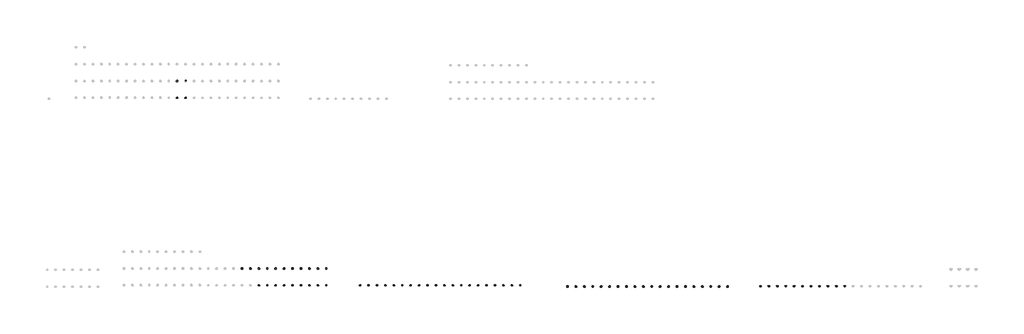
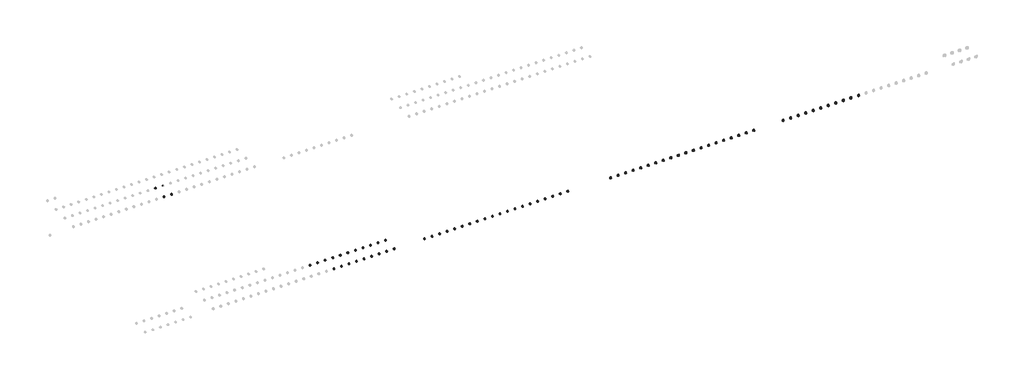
# One storey, part 13 of 18: 75 proxies, 74 cable carrier fittings.
"""IFC4 building model written with IfcOpenShell, lengths in millimetres."""

from ifc_helpers import new_model, si_unit, origin, place, context, project, spatial, transform, mapped, element, save
from components import electrical_fixtures_73520d25, electrical_fixtures_1f2eaab9, electrical_fixtures_01d7cf26, electrical_fixtures_085c7708, electrical_fixtures_ba285ae0, electrical_fixtures_0364c754, electrical_fixtures_46f6e991, electrical_fixtures_b969a870, electrical_fixtures_df0d4698, electrical_fixtures_a90f5210, electrical_fixtures_ac517def, electrical_fixtures_78160e77, cable_carrier_fitting_a64d4eba

model = new_model("IFC4")

# Units and contexts
model_context = context("Model", 3, world=origin())
ifc_project = project(units=[si_unit("LENGTHUNIT", "METRE", prefix="MILLI")], contexts=[model_context])

# Site, building, storey
site = spatial("IfcSite", under=ifc_project)
building = spatial("IfcBuilding", under=site)
storey = spatial("IfcBuildingStorey", under=building, Name="Этаж 01", Elevation=0.0)

# Proxies
placement = place(None, origin())
electrical_fixtures_shape = electrical_fixtures_73520d25(model_context)
element("IfcBuildingElementProxy", 1, Name="IEK_Brite_Механизм розетки мультимедийной : HDMI_РHDMI-0-БрС", ObjectType="IEK_Brite_Механизм розетки мультимедийной : HDMI_РHDMI-0-БрС", at=placement, inside=storey, context=model_context, shape_type="MappedRepresentation", body=[
    mapped(electrical_fixtures_shape, transform((68136.4805226, -17760.0, 0.0), x_axis=(1.0, 0.0, 0.0), y_axis=(0.0, 1.0, 0.0), z_axis=(0.0, 0.0, 1.0))),
])
element("IfcBuildingElementProxy", 2, Name="IEK_Brite_Механизм розетки мультимедийной : HDMI_РHDMI-0-БрТБ", ObjectType="IEK_Brite_Механизм розетки мультимедийной : HDMI_РHDMI-0-БрТБ", at=placement, inside=storey, context=model_context, shape_type="MappedRepresentation", body=[
    mapped(electrical_fixtures_shape, transform((68536.4805226, -17760.0, 0.0), x_axis=(1.0, 0.0, 0.0), y_axis=(0.0, 1.0, 0.0), z_axis=(0.0, 0.0, 1.0))),
])
element("IfcBuildingElementProxy", 3, Name="IEK_Brite_Механизм розетки мультимедийной : HDMI_РHDMI-0-БрЧ", ObjectType="IEK_Brite_Механизм розетки мультимедийной : HDMI_РHDMI-0-БрЧ", at=placement, inside=storey, context=model_context, shape_type="MappedRepresentation", body=[
    mapped(electrical_fixtures_shape, transform((68936.4805226, -17760.0, 0.0), x_axis=(1.0, 0.0, 0.0), y_axis=(0.0, 1.0, 0.0), z_axis=(0.0, 0.0, 1.0))),
])
element("IfcBuildingElementProxy", 4, Name="IEK_Brite_Механизм розетки мультимедийной : HDMI_РHDMI-0-БрШ", ObjectType="IEK_Brite_Механизм розетки мультимедийной : HDMI_РHDMI-0-БрШ", at=placement, inside=storey, context=model_context, shape_type="MappedRepresentation", body=[
    mapped(electrical_fixtures_shape, transform((69336.4805226, -17760.0, 0.0), x_axis=(1.0, 0.0, 0.0), y_axis=(0.0, 1.0, 0.0), z_axis=(0.0, 0.0, 1.0))),
])
electrical_fixtures_2_shape = electrical_fixtures_1f2eaab9(model_context)
element("IfcBuildingElementProxy", 5, Name="IEK_Brite_Механизм розетки мультимедийной : TV О_РТВ11-0-БрА", ObjectType="IEK_Brite_Механизм розетки мультимедийной : TV О_РТВ11-0-БрА", at=placement, inside=storey, context=model_context, shape_type="MappedRepresentation", body=[
    mapped(electrical_fixtures_2_shape, transform((69736.4805226, -17760.0, 0.0), x_axis=(1.0, 0.0, 0.0), y_axis=(0.0, 1.0, 0.0), z_axis=(0.0, 0.0, 1.0))),
])
element("IfcBuildingElementProxy", 6, Name="IEK_Brite_Механизм розетки мультимедийной : TV О_РТВ11-0-БрБ", ObjectType="IEK_Brite_Механизм розетки мультимедийной : TV О_РТВ11-0-БрБ", at=placement, inside=storey, context=model_context, shape_type="MappedRepresentation", body=[
    mapped(electrical_fixtures_2_shape, transform((70136.4805226, -17760.0, 0.0), x_axis=(1.0, 0.0, 0.0), y_axis=(0.0, 1.0, 0.0), z_axis=(0.0, 0.0, 1.0))),
])
element("IfcBuildingElementProxy", 7, Name="IEK_Brite_Механизм розетки мультимедийной : TV О_РТВ11-0-БрГ", ObjectType="IEK_Brite_Механизм розетки мультимедийной : TV О_РТВ11-0-БрГ", at=placement, inside=storey, context=model_context, shape_type="MappedRepresentation", body=[
    mapped(electrical_fixtures_2_shape, transform((70536.4805226, -17760.0, 0.0), x_axis=(1.0, 0.0, 0.0), y_axis=(0.0, 1.0, 0.0), z_axis=(0.0, 0.0, 1.0))),
])
element("IfcBuildingElementProxy", 8, Name="IEK_Brite_Механизм розетки мультимедийной : TV О_РТВ11-0-БрЖ", ObjectType="IEK_Brite_Механизм розетки мультимедийной : TV О_РТВ11-0-БрЖ", at=placement, inside=storey, context=model_context, shape_type="MappedRepresentation", body=[
    mapped(electrical_fixtures_2_shape, transform((70936.4805226, -17760.0, 0.0), x_axis=(1.0, 0.0, 0.0), y_axis=(0.0, 1.0, 0.0), z_axis=(0.0, 0.0, 1.0))),
])
element("IfcBuildingElementProxy", 9, Name="IEK_Brite_Механизм розетки мультимедийной : TV О_РТВ11-0-БрКр", ObjectType="IEK_Brite_Механизм розетки мультимедийной : TV О_РТВ11-0-БрКр", at=placement, inside=storey, context=model_context, shape_type="MappedRepresentation", body=[
    mapped(electrical_fixtures_2_shape, transform((71336.4805226, -17760.0, 0.0), x_axis=(1.0, 0.0, 0.0), y_axis=(0.0, 1.0, 0.0), z_axis=(0.0, 0.0, 1.0))),
])
element("IfcBuildingElementProxy", 10, Name="IEK_Brite_Механизм розетки мультимедийной : TV П_РТВ10-0-БрШ", ObjectType="IEK_Brite_Механизм розетки мультимедийной : TV П_РТВ10-0-БрШ", at=placement, inside=storey, context=model_context, shape_type="MappedRepresentation", body=[
    mapped(electrical_fixtures_2_shape, transform((67336.4805226, -16960.0, 0.0), x_axis=(1.0, 0.0, 0.0), y_axis=(0.0, 1.0, 0.0), z_axis=(0.0, 0.0, 1.0))),
])
electrical_fixtures_3_shape = electrical_fixtures_01d7cf26(model_context)
element("IfcBuildingElementProxy", 11, Name="IEK_Brite_Механизм розетки мультимедийной : TV+RJ45-РТВ/РК12-БрБ", ObjectType="IEK_Brite_Механизм розетки мультимедийной : TV+RJ45-РТВ/РК12-БрБ", at=placement, inside=storey, context=model_context, shape_type="MappedRepresentation", body=[
    mapped(electrical_fixtures_3_shape, transform((67736.4805226, -16960.0, 0.0), x_axis=(1.0, 0.0, 0.0), y_axis=(0.0, 1.0, 0.0), z_axis=(0.0, 0.0, 1.0))),
])
element("IfcBuildingElementProxy", 12, Name="IEK_Brite_Механизм розетки мультимедийной : TV+RJ45-РТВ/РК12-БрГ", ObjectType="IEK_Brite_Механизм розетки мультимедийной : TV+RJ45-РТВ/РК12-БрГ", at=placement, inside=storey, context=model_context, shape_type="MappedRepresentation", body=[
    mapped(electrical_fixtures_3_shape, transform((68136.4805226, -16960.0, 0.0), x_axis=(1.0, 0.0, 0.0), y_axis=(0.0, 1.0, 0.0), z_axis=(0.0, 0.0, 1.0))),
])
element("IfcBuildingElementProxy", 13, Name="IEK_Brite_Механизм розетки мультимедийной : TV+RJ45-РТВ/РК12-БрЖ", ObjectType="IEK_Brite_Механизм розетки мультимедийной : TV+RJ45-РТВ/РК12-БрЖ", at=placement, inside=storey, context=model_context, shape_type="MappedRepresentation", body=[
    mapped(electrical_fixtures_3_shape, transform((68536.4805226, -16960.0, 0.0), x_axis=(1.0, 0.0, 0.0), y_axis=(0.0, 1.0, 0.0), z_axis=(0.0, 0.0, 1.0))),
])
element("IfcBuildingElementProxy", 14, Name="IEK_Brite_Механизм розетки мультимедийной : TV+RJ45-РТВ/РК12-БрКр", ObjectType="IEK_Brite_Механизм розетки мультимедийной : TV+RJ45-РТВ/РК12-БрКр", at=placement, inside=storey, context=model_context, shape_type="MappedRepresentation", body=[
    mapped(electrical_fixtures_3_shape, transform((68936.4805226, -16960.0, 0.0), x_axis=(1.0, 0.0, 0.0), y_axis=(0.0, 1.0, 0.0), z_axis=(0.0, 0.0, 1.0))),
])
element("IfcBuildingElementProxy", 15, Name="IEK_Brite_Механизм розетки мультимедийной : TV+RJ45-РТВ/РК12-БрМ", ObjectType="IEK_Brite_Механизм розетки мультимедийной : TV+RJ45-РТВ/РК12-БрМ", at=placement, inside=storey, context=model_context, shape_type="MappedRepresentation", body=[
    mapped(electrical_fixtures_3_shape, transform((69336.4805226, -16960.0, 0.0), x_axis=(1.0, 0.0, 0.0), y_axis=(0.0, 1.0, 0.0), z_axis=(0.0, 0.0, 1.0))),
])
element("IfcBuildingElementProxy", 16, Name="IEK_Brite_Механизм розетки мультимедийной : TV+RJ45-РТВ/РК12-БрС", ObjectType="IEK_Brite_Механизм розетки мультимедийной : TV+RJ45-РТВ/РК12-БрС", at=placement, inside=storey, context=model_context, shape_type="MappedRepresentation", body=[
    mapped(electrical_fixtures_3_shape, transform((69736.4805226, -16960.0, 0.0), x_axis=(1.0, 0.0, 0.0), y_axis=(0.0, 1.0, 0.0), z_axis=(0.0, 0.0, 1.0))),
])
element("IfcBuildingElementProxy", 17, Name="IEK_Brite_Механизм розетки мультимедийной : TV+RJ45-РТВ/РК12-БрТБ", ObjectType="IEK_Brite_Механизм розетки мультимедийной : TV+RJ45-РТВ/РК12-БрТБ", at=placement, inside=storey, context=model_context, shape_type="MappedRepresentation", body=[
    mapped(electrical_fixtures_3_shape, transform((70136.4805226, -16960.0, 0.0), x_axis=(1.0, 0.0, 0.0), y_axis=(0.0, 1.0, 0.0), z_axis=(0.0, 0.0, 1.0))),
])
element("IfcBuildingElementProxy", 18, Name="IEK_Brite_Механизм розетки мультимедийной : TV+RJ45-РТВ/РК12-БрЧ", ObjectType="IEK_Brite_Механизм розетки мультимедийной : TV+RJ45-РТВ/РК12-БрЧ", at=placement, inside=storey, context=model_context, shape_type="MappedRepresentation", body=[
    mapped(electrical_fixtures_3_shape, transform((70536.4805226, -16960.0, 0.0), x_axis=(1.0, 0.0, 0.0), y_axis=(0.0, 1.0, 0.0), z_axis=(0.0, 0.0, 1.0))),
])
element("IfcBuildingElementProxy", 19, Name="IEK_Brite_Механизм розетки мультимедийной : TV+RJ45-РТВ/РК12-БрШ", ObjectType="IEK_Brite_Механизм розетки мультимедийной : TV+RJ45-РТВ/РК12-БрШ", at=placement, inside=storey, context=model_context, shape_type="MappedRepresentation", body=[
    mapped(electrical_fixtures_3_shape, transform((70936.4805226, -16960.0, 0.0), x_axis=(1.0, 0.0, 0.0), y_axis=(0.0, 1.0, 0.0), z_axis=(0.0, 0.0, 1.0))),
])
electrical_fixtures_4_shape = electrical_fixtures_085c7708(model_context)
element("IfcBuildingElementProxy", 20, Name="IEK_Brite_Механизм розетки мультимедийной : TV+SAT-РТВ/РСп12-БрА", ObjectType="IEK_Brite_Механизм розетки мультимедийной : TV+SAT-РТВ/РСп12-БрА", at=placement, inside=storey, context=model_context, shape_type="MappedRepresentation", body=[
    mapped(electrical_fixtures_4_shape, transform((71336.4805226, -16960.0, 0.0), x_axis=(1.0, 0.0, 0.0), y_axis=(0.0, 1.0, 0.0), z_axis=(0.0, 0.0, 1.0))),
])
electrical_fixtures_5_shape = electrical_fixtures_ba285ae0(model_context)
element("IfcBuildingElementProxy", 21, Name="IEK_Skandy_Механизм розетки мультимедийной : HDMI_SK-H01Bl", ObjectType="IEK_Skandy_Механизм розетки мультимедийной : HDMI_SK-H01Bl", at=placement, inside=storey, context=model_context, shape_type="MappedRepresentation", body=[
    mapped(electrical_fixtures_5_shape, transform((64263.2731659, -8860.0, 0.0), x_axis=(1.0, 0.0, 0.0), y_axis=(0.0, 1.0, 0.0), z_axis=(0.0, 0.0, 1.0))),
])
element("IfcBuildingElementProxy", 22, Name="IEK_Skandy_Механизм розетки мультимедийной : HDMI_SK-H01G", ObjectType="IEK_Skandy_Механизм розетки мультимедийной : HDMI_SK-H01G", at=placement, inside=storey, context=model_context, shape_type="MappedRepresentation", body=[
    mapped(electrical_fixtures_5_shape, transform((64663.2731659, -8860.0, 0.0), x_axis=(1.0, 0.0, 0.0), y_axis=(0.0, 1.0, 0.0), z_axis=(0.0, 0.0, 1.0))),
])
electrical_fixtures_6_shape = electrical_fixtures_0364c754(model_context)
element("IfcBuildingElementProxy", 23, Name="IEK_Skandy_Механизм розетки мультимедийной : TV П_SK-A17M", ObjectType="IEK_Skandy_Механизм розетки мультимедийной : TV П_SK-A17M", at=placement, inside=storey, context=model_context, shape_type="MappedRepresentation", body=[
    mapped(electrical_fixtures_6_shape, transform((64263.2731659, -8060.0, 0.0), x_axis=(1.0, 0.0, 0.0), y_axis=(0.0, 1.0, 0.0), z_axis=(0.0, 0.0, 1.0))),
])
element("IfcBuildingElementProxy", 24, Name="IEK_Skandy_Механизм розетки мультимедийной : TV П_SK-A17N", ObjectType="IEK_Skandy_Механизм розетки мультимедийной : TV П_SK-A17N", at=placement, inside=storey, context=model_context, shape_type="MappedRepresentation", body=[
    mapped(electrical_fixtures_6_shape, transform((64663.2731659, -8060.0, 0.0), x_axis=(1.0, 0.0, 0.0), y_axis=(0.0, 1.0, 0.0), z_axis=(0.0, 0.0, 1.0))),
])
electrical_fixtures_7_shape = electrical_fixtures_46f6e991(model_context)
element("IfcBuildingElementProxy", 25, Name="IEK_Brite_Выключатель : В1_ВСР10-1-0-БрА", ObjectType="IEK_Brite_Выключатель : В1_ВСР10-1-0-БрА", at=placement, inside=storey, context=model_context, shape_type="MappedRepresentation", body=[
    mapped(electrical_fixtures_7_shape, transform((82782.9397554, -17815.0, 0.0), x_axis=(1.0, 0.0, 0.0), y_axis=(0.0, 1.0, 0.0), z_axis=(0.0, 0.0, 1.0))),
])
element("IfcBuildingElementProxy", 26, Name="IEK_Brite_Выключатель : В1_ВСР10-1-0-БрБ", ObjectType="IEK_Brite_Выключатель : В1_ВСР10-1-0-БрБ", at=placement, inside=storey, context=model_context, shape_type="MappedRepresentation", body=[
    mapped(electrical_fixtures_7_shape, transform((83182.9397554, -17815.0, 0.0), x_axis=(1.0, 0.0, 0.0), y_axis=(0.0, 1.0, 0.0), z_axis=(0.0, 0.0, 1.0))),
])
element("IfcBuildingElementProxy", 27, Name="IEK_Brite_Выключатель : В1_ВСР10-1-0-БрГ", ObjectType="IEK_Brite_Выключатель : В1_ВСР10-1-0-БрГ", at=placement, inside=storey, context=model_context, shape_type="MappedRepresentation", body=[
    mapped(electrical_fixtures_7_shape, transform((83582.9397554, -17815.0, 0.0), x_axis=(1.0, 0.0, 0.0), y_axis=(0.0, 1.0, 0.0), z_axis=(0.0, 0.0, 1.0))),
])
element("IfcBuildingElementProxy", 28, Name="IEK_Brite_Выключатель : В1_ВСР10-1-0-БрЖ", ObjectType="IEK_Brite_Выключатель : В1_ВСР10-1-0-БрЖ", at=placement, inside=storey, context=model_context, shape_type="MappedRepresentation", body=[
    mapped(electrical_fixtures_7_shape, transform((83982.9397554, -17815.0, 0.0), x_axis=(1.0, 0.0, 0.0), y_axis=(0.0, 1.0, 0.0), z_axis=(0.0, 0.0, 1.0))),
])
element("IfcBuildingElementProxy", 29, Name="IEK_Brite_Выключатель : В1_ВСР10-1-0-БрКр", ObjectType="IEK_Brite_Выключатель : В1_ВСР10-1-0-БрКр", at=placement, inside=storey, context=model_context, shape_type="MappedRepresentation", body=[
    mapped(electrical_fixtures_7_shape, transform((84382.9397554, -17815.0, 0.0), x_axis=(1.0, 0.0, 0.0), y_axis=(0.0, 1.0, 0.0), z_axis=(0.0, 0.0, 1.0))),
])
element("IfcBuildingElementProxy", 30, Name="IEK_Brite_Выключатель : В1_ВСР10-1-0-БрМ", ObjectType="IEK_Brite_Выключатель : В1_ВСР10-1-0-БрМ", at=placement, inside=storey, context=model_context, shape_type="MappedRepresentation", body=[
    mapped(electrical_fixtures_7_shape, transform((84782.9397554, -17815.0, 0.0), x_axis=(1.0, 0.0, 0.0), y_axis=(0.0, 1.0, 0.0), z_axis=(0.0, 0.0, 1.0))),
])
element("IfcBuildingElementProxy", 31, Name="IEK_Brite_Выключатель : В1_ВСР10-1-0-БрС", ObjectType="IEK_Brite_Выключатель : В1_ВСР10-1-0-БрС", at=placement, inside=storey, context=model_context, shape_type="MappedRepresentation", body=[
    mapped(electrical_fixtures_7_shape, transform((85182.9397554, -17815.0, 0.0), x_axis=(1.0, 0.0, 0.0), y_axis=(0.0, 1.0, 0.0), z_axis=(0.0, 0.0, 1.0))),
])
element("IfcBuildingElementProxy", 32, Name="IEK_Brite_Выключатель : В1_ВСР10-1-0-БрТБ", ObjectType="IEK_Brite_Выключатель : В1_ВСР10-1-0-БрТБ", at=placement, inside=storey, context=model_context, shape_type="MappedRepresentation", body=[
    mapped(electrical_fixtures_7_shape, transform((85582.9397554, -17815.0, 0.0), x_axis=(1.0, 0.0, 0.0), y_axis=(0.0, 1.0, 0.0), z_axis=(0.0, 0.0, 1.0))),
])
element("IfcBuildingElementProxy", 33, Name="IEK_Brite_Выключатель : В1_ВСР10-1-0-БрЧ", ObjectType="IEK_Brite_Выключатель : В1_ВСР10-1-0-БрЧ", at=placement, inside=storey, context=model_context, shape_type="MappedRepresentation", body=[
    mapped(electrical_fixtures_7_shape, transform((85982.9397554, -17815.0, 0.0), x_axis=(1.0, 0.0, 0.0), y_axis=(0.0, 1.0, 0.0), z_axis=(0.0, 0.0, 1.0))),
])
element("IfcBuildingElementProxy", 34, Name="IEK_Brite_Выключатель : В1_ВСР10-1-0-БрШ", ObjectType="IEK_Brite_Выключатель : В1_ВСР10-1-0-БрШ", at=placement, inside=storey, context=model_context, shape_type="MappedRepresentation", body=[
    mapped(electrical_fixtures_7_shape, transform((86382.9397554, -17815.0, 0.0), x_axis=(1.0, 0.0, 0.0), y_axis=(0.0, 1.0, 0.0), z_axis=(0.0, 0.0, 1.0))),
])
electrical_fixtures_8_shape = electrical_fixtures_b969a870(model_context)
element("IfcBuildingElementProxy", 35, Name="IEK_Brite_Выключатель : В2_ВСР10-2-0-БрА", ObjectType="IEK_Brite_Выключатель : В2_ВСР10-2-0-БрА", at=placement, inside=storey, context=model_context, shape_type="MappedRepresentation", body=[
    mapped(electrical_fixtures_8_shape, transform((86782.9397554, -17815.0, 0.0), x_axis=(1.0, 0.0, 0.0), y_axis=(0.0, 1.0, 0.0), z_axis=(0.0, 0.0, 1.0))),
])
element("IfcBuildingElementProxy", 36, Name="IEK_Brite_Выключатель : В2_ВСР10-2-0-БрБ", ObjectType="IEK_Brite_Выключатель : В2_ВСР10-2-0-БрБ", at=placement, inside=storey, context=model_context, shape_type="MappedRepresentation", body=[
    mapped(electrical_fixtures_8_shape, transform((87182.9397554, -17815.0, 0.0), x_axis=(1.0, 0.0, 0.0), y_axis=(0.0, 1.0, 0.0), z_axis=(0.0, 0.0, 1.0))),
])
element("IfcBuildingElementProxy", 37, Name="IEK_Brite_Выключатель : В2_ВСР10-2-0-БрГ", ObjectType="IEK_Brite_Выключатель : В2_ВСР10-2-0-БрГ", at=placement, inside=storey, context=model_context, shape_type="MappedRepresentation", body=[
    mapped(electrical_fixtures_8_shape, transform((87582.9397554, -17815.0, 0.0), x_axis=(1.0, 0.0, 0.0), y_axis=(0.0, 1.0, 0.0), z_axis=(0.0, 0.0, 1.0))),
])
element("IfcBuildingElementProxy", 38, Name="IEK_Brite_Выключатель : В2_ВСР10-2-0-БрЖ", ObjectType="IEK_Brite_Выключатель : В2_ВСР10-2-0-БрЖ", at=placement, inside=storey, context=model_context, shape_type="MappedRepresentation", body=[
    mapped(electrical_fixtures_8_shape, transform((87982.9397554, -17815.0, 0.0), x_axis=(1.0, 0.0, 0.0), y_axis=(0.0, 1.0, 0.0), z_axis=(0.0, 0.0, 1.0))),
])
element("IfcBuildingElementProxy", 39, Name="IEK_Brite_Выключатель : В2_ВСР10-2-0-БрКр", ObjectType="IEK_Brite_Выключатель : В2_ВСР10-2-0-БрКр", at=placement, inside=storey, context=model_context, shape_type="MappedRepresentation", body=[
    mapped(electrical_fixtures_8_shape, transform((88382.9397554, -17815.0, 0.0), x_axis=(1.0, 0.0, 0.0), y_axis=(0.0, 1.0, 0.0), z_axis=(0.0, 0.0, 1.0))),
])
element("IfcBuildingElementProxy", 40, Name="IEK_Brite_Выключатель : В2_ВСР10-2-0-БрМ", ObjectType="IEK_Brite_Выключатель : В2_ВСР10-2-0-БрМ", at=placement, inside=storey, context=model_context, shape_type="MappedRepresentation", body=[
    mapped(electrical_fixtures_8_shape, transform((88782.9397554, -17815.0, 0.0), x_axis=(1.0, 0.0, 0.0), y_axis=(0.0, 1.0, 0.0), z_axis=(0.0, 0.0, 1.0))),
])
element("IfcBuildingElementProxy", 41, Name="IEK_Brite_Выключатель : В2_ВСР10-2-0-БрС", ObjectType="IEK_Brite_Выключатель : В2_ВСР10-2-0-БрС", at=placement, inside=storey, context=model_context, shape_type="MappedRepresentation", body=[
    mapped(electrical_fixtures_8_shape, transform((89182.9397554, -17815.0, 0.0), x_axis=(1.0, 0.0, 0.0), y_axis=(0.0, 1.0, 0.0), z_axis=(0.0, 0.0, 1.0))),
])
element("IfcBuildingElementProxy", 42, Name="IEK_Brite_Выключатель : В2_ВСР10-2-0-БрТБ", ObjectType="IEK_Brite_Выключатель : В2_ВСР10-2-0-БрТБ", at=placement, inside=storey, context=model_context, shape_type="MappedRepresentation", body=[
    mapped(electrical_fixtures_8_shape, transform((89582.9397554, -17815.0, 0.0), x_axis=(1.0, 0.0, 0.0), y_axis=(0.0, 1.0, 0.0), z_axis=(0.0, 0.0, 1.0))),
])
element("IfcBuildingElementProxy", 43, Name="IEK_Brite_Выключатель : В2_ВСР10-2-0-БрЧ", ObjectType="IEK_Brite_Выключатель : В2_ВСР10-2-0-БрЧ", at=placement, inside=storey, context=model_context, shape_type="MappedRepresentation", body=[
    mapped(electrical_fixtures_8_shape, transform((89982.9397554, -17815.0, 0.0), x_axis=(1.0, 0.0, 0.0), y_axis=(0.0, 1.0, 0.0), z_axis=(0.0, 0.0, 1.0))),
])
element("IfcBuildingElementProxy", 44, Name="IEK_Brite_Выключатель : В2_ВСР10-2-0-БрШ", ObjectType="IEK_Brite_Выключатель : В2_ВСР10-2-0-БрШ", at=placement, inside=storey, context=model_context, shape_type="MappedRepresentation", body=[
    mapped(electrical_fixtures_8_shape, transform((90382.9397554, -17815.0, 0.0), x_axis=(1.0, 0.0, 0.0), y_axis=(0.0, 1.0, 0.0), z_axis=(0.0, 0.0, 1.0))),
])
electrical_fixtures_9_shape = electrical_fixtures_df0d4698(model_context)
element("IfcBuildingElementProxy", 45, Name="IEK_Brite_Механизм свето-терморегулятора : ВР_СС10-1-0-БрА", ObjectType="IEK_Brite_Механизм свето-терморегулятора : ВР_СС10-1-0-БрА", at=placement, inside=storey, context=model_context, shape_type="MappedRepresentation", body=[
    mapped(electrical_fixtures_9_shape, transform((72942.6999585, -17760.0, 0.0), x_axis=(1.0, 0.0, 0.0), y_axis=(0.0, 1.0, 0.0), z_axis=(0.0, 0.0, 1.0))),
])
element("IfcBuildingElementProxy", 46, Name="IEK_Brite_Механизм свето-терморегулятора : ВР_СС10-1-0-БрБ", ObjectType="IEK_Brite_Механизм свето-терморегулятора : ВР_СС10-1-0-БрБ", at=placement, inside=storey, context=model_context, shape_type="MappedRepresentation", body=[
    mapped(electrical_fixtures_9_shape, transform((73342.6999585, -17760.0, 0.0), x_axis=(1.0, 0.0, 0.0), y_axis=(0.0, 1.0, 0.0), z_axis=(0.0, 0.0, 1.0))),
])
element("IfcBuildingElementProxy", 47, Name="IEK_Brite_Механизм свето-терморегулятора : ВР_СС10-1-0-БрГ", ObjectType="IEK_Brite_Механизм свето-терморегулятора : ВР_СС10-1-0-БрГ", at=placement, inside=storey, context=model_context, shape_type="MappedRepresentation", body=[
    mapped(electrical_fixtures_9_shape, transform((73742.6999585, -17760.0, 0.0), x_axis=(1.0, 0.0, 0.0), y_axis=(0.0, 1.0, 0.0), z_axis=(0.0, 0.0, 1.0))),
])
element("IfcBuildingElementProxy", 48, Name="IEK_Brite_Механизм свето-терморегулятора : ВР_СС10-1-0-БрЖ", ObjectType="IEK_Brite_Механизм свето-терморегулятора : ВР_СС10-1-0-БрЖ", at=placement, inside=storey, context=model_context, shape_type="MappedRepresentation", body=[
    mapped(electrical_fixtures_9_shape, transform((74142.6999585, -17760.0, 0.0), x_axis=(1.0, 0.0, 0.0), y_axis=(0.0, 1.0, 0.0), z_axis=(0.0, 0.0, 1.0))),
])
element("IfcBuildingElementProxy", 49, Name="IEK_Brite_Механизм свето-терморегулятора : ВР_СС10-1-0-БрКр", ObjectType="IEK_Brite_Механизм свето-терморегулятора : ВР_СС10-1-0-БрКр", at=placement, inside=storey, context=model_context, shape_type="MappedRepresentation", body=[
    mapped(electrical_fixtures_9_shape, transform((74542.6999585, -17760.0, 0.0), x_axis=(1.0, 0.0, 0.0), y_axis=(0.0, 1.0, 0.0), z_axis=(0.0, 0.0, 1.0))),
])
element("IfcBuildingElementProxy", 50, Name="IEK_Brite_Механизм свето-терморегулятора : ВР_СС10-1-0-БрМ", ObjectType="IEK_Brite_Механизм свето-терморегулятора : ВР_СС10-1-0-БрМ", at=placement, inside=storey, context=model_context, shape_type="MappedRepresentation", body=[
    mapped(electrical_fixtures_9_shape, transform((74942.6999585, -17760.0, 0.0), x_axis=(1.0, 0.0, 0.0), y_axis=(0.0, 1.0, 0.0), z_axis=(0.0, 0.0, 1.0))),
])
element("IfcBuildingElementProxy", 51, Name="IEK_Brite_Механизм свето-терморегулятора : ВР_СС10-1-0-БрС", ObjectType="IEK_Brite_Механизм свето-терморегулятора : ВР_СС10-1-0-БрС", at=placement, inside=storey, context=model_context, shape_type="MappedRepresentation", body=[
    mapped(electrical_fixtures_9_shape, transform((75342.6999585, -17760.0, 0.0), x_axis=(1.0, 0.0, 0.0), y_axis=(0.0, 1.0, 0.0), z_axis=(0.0, 0.0, 1.0))),
])
element("IfcBuildingElementProxy", 52, Name="IEK_Brite_Механизм свето-терморегулятора : ВР_СС10-1-0-БрТБ", ObjectType="IEK_Brite_Механизм свето-терморегулятора : ВР_СС10-1-0-БрТБ", at=placement, inside=storey, context=model_context, shape_type="MappedRepresentation", body=[
    mapped(electrical_fixtures_9_shape, transform((75742.6999585, -17760.0, 0.0), x_axis=(1.0, 0.0, 0.0), y_axis=(0.0, 1.0, 0.0), z_axis=(0.0, 0.0, 1.0))),
])
element("IfcBuildingElementProxy", 53, Name="IEK_Brite_Механизм свето-терморегулятора : ВР_СС10-1-0-БрЧ", ObjectType="IEK_Brite_Механизм свето-терморегулятора : ВР_СС10-1-0-БрЧ", at=placement, inside=storey, context=model_context, shape_type="MappedRepresentation", body=[
    mapped(electrical_fixtures_9_shape, transform((76142.6999585, -17760.0, 0.0), x_axis=(1.0, 0.0, 0.0), y_axis=(0.0, 1.0, 0.0), z_axis=(0.0, 0.0, 1.0))),
])
element("IfcBuildingElementProxy", 54, Name="IEK_Brite_Механизм свето-терморегулятора : ВР_СС10-1-0-БрШ", ObjectType="IEK_Brite_Механизм свето-терморегулятора : ВР_СС10-1-0-БрШ", at=placement, inside=storey, context=model_context, shape_type="MappedRepresentation", body=[
    mapped(electrical_fixtures_9_shape, transform((76542.6999585, -17760.0, 0.0), x_axis=(1.0, 0.0, 0.0), y_axis=(0.0, 1.0, 0.0), z_axis=(0.0, 0.0, 1.0))),
])
electrical_fixtures_10_shape = electrical_fixtures_a90f5210(model_context)
element("IfcBuildingElementProxy", 55, Name="IEK_Brite_Механизм свето-терморегулятора : ТР_ТС10-1-БрА", ObjectType="IEK_Brite_Механизм свето-терморегулятора : ТР_ТС10-1-БрА", at=placement, inside=storey, context=model_context, shape_type="MappedRepresentation", body=[
    mapped(electrical_fixtures_10_shape, transform((76942.6999585, -17760.0, 0.0), x_axis=(1.0, 0.0, 0.0), y_axis=(0.0, 1.0, 0.0), z_axis=(0.0, 0.0, 1.0))),
])
element("IfcBuildingElementProxy", 56, Name="IEK_Brite_Механизм свето-терморегулятора : ТР_ТС10-1-БрБ", ObjectType="IEK_Brite_Механизм свето-терморегулятора : ТР_ТС10-1-БрБ", at=placement, inside=storey, context=model_context, shape_type="MappedRepresentation", body=[
    mapped(electrical_fixtures_10_shape, transform((77342.6999585, -17760.0, 0.0), x_axis=(1.0, 0.0, 0.0), y_axis=(0.0, 1.0, 0.0), z_axis=(0.0, 0.0, 1.0))),
])
element("IfcBuildingElementProxy", 57, Name="IEK_Brite_Механизм свето-терморегулятора : ТР_ТС10-1-БрЖ", ObjectType="IEK_Brite_Механизм свето-терморегулятора : ТР_ТС10-1-БрЖ", at=placement, inside=storey, context=model_context, shape_type="MappedRepresentation", body=[
    mapped(electrical_fixtures_10_shape, transform((78142.6999585, -17760.0, 0.0), x_axis=(1.0, 0.0, 0.0), y_axis=(0.0, 1.0, 0.0), z_axis=(0.0, 0.0, 1.0))),
])
element("IfcBuildingElementProxy", 58, Name="IEK_Brite_Механизм свето-терморегулятора : ТР_ТС10-1-БрКр", ObjectType="IEK_Brite_Механизм свето-терморегулятора : ТР_ТС10-1-БрКр", at=placement, inside=storey, context=model_context, shape_type="MappedRepresentation", body=[
    mapped(electrical_fixtures_10_shape, transform((78542.6999585, -17760.0, 0.0), x_axis=(1.0, 0.0, 0.0), y_axis=(0.0, 1.0, 0.0), z_axis=(0.0, 0.0, 1.0))),
])
element("IfcBuildingElementProxy", 59, Name="IEK_Brite_Механизм свето-терморегулятора : ТР_ТС10-1-БрМ", ObjectType="IEK_Brite_Механизм свето-терморегулятора : ТР_ТС10-1-БрМ", at=placement, inside=storey, context=model_context, shape_type="MappedRepresentation", body=[
    mapped(electrical_fixtures_10_shape, transform((78942.6999585, -17760.0, 0.0), x_axis=(1.0, 0.0, 0.0), y_axis=(0.0, 1.0, 0.0), z_axis=(0.0, 0.0, 1.0))),
])
element("IfcBuildingElementProxy", 60, Name="IEK_Brite_Механизм свето-терморегулятора : ТР_ТС10-1-БрС", ObjectType="IEK_Brite_Механизм свето-терморегулятора : ТР_ТС10-1-БрС", at=placement, inside=storey, context=model_context, shape_type="MappedRepresentation", body=[
    mapped(electrical_fixtures_10_shape, transform((79342.6999585, -17760.0, 0.0), x_axis=(1.0, 0.0, 0.0), y_axis=(0.0, 1.0, 0.0), z_axis=(0.0, 0.0, 1.0))),
])
element("IfcBuildingElementProxy", 61, Name="IEK_Brite_Механизм свето-терморегулятора : ТР_ТС10-1-БрТБ", ObjectType="IEK_Brite_Механизм свето-терморегулятора : ТР_ТС10-1-БрТБ", at=placement, inside=storey, context=model_context, shape_type="MappedRepresentation", body=[
    mapped(electrical_fixtures_10_shape, transform((79742.6999585, -17760.0, 0.0), x_axis=(1.0, 0.0, 0.0), y_axis=(0.0, 1.0, 0.0), z_axis=(0.0, 0.0, 1.0))),
])
element("IfcBuildingElementProxy", 62, Name="IEK_Brite_Механизм свето-терморегулятора : ТР_ТС10-1-БрЧ", ObjectType="IEK_Brite_Механизм свето-терморегулятора : ТР_ТС10-1-БрЧ", at=placement, inside=storey, context=model_context, shape_type="MappedRepresentation", body=[
    mapped(electrical_fixtures_10_shape, transform((80142.6999585, -17760.0, 0.0), x_axis=(1.0, 0.0, 0.0), y_axis=(0.0, 1.0, 0.0), z_axis=(0.0, 0.0, 1.0))),
])
element("IfcBuildingElementProxy", 63, Name="IEK_Brite_Механизм свето-терморегулятора : ТР_ТС10-1-БрШ", ObjectType="IEK_Brite_Механизм свето-терморегулятора : ТР_ТС10-1-БрШ", at=placement, inside=storey, context=model_context, shape_type="MappedRepresentation", body=[
    mapped(electrical_fixtures_10_shape, transform((80542.6999585, -17760.0, 0.0), x_axis=(1.0, 0.0, 0.0), y_axis=(0.0, 1.0, 0.0), z_axis=(0.0, 0.0, 1.0))),
])
element("IfcBuildingElementProxy", 64, Name="IEK_Brite_Механизм свето-терморегулятора : ТР_ТС10-1-БрГ", ObjectType="IEK_Brite_Механизм свето-терморегулятора : ТР_ТС10-1-БрГ", at=placement, inside=storey, context=model_context, shape_type="MappedRepresentation", body=[
    mapped(electrical_fixtures_10_shape, transform((77742.6999585, -17760.0, 0.0), x_axis=(1.0, 0.0, 0.0), y_axis=(0.0, 1.0, 0.0), z_axis=(0.0, 0.0, 1.0))),
])
electrical_fixtures_11_shape = electrical_fixtures_ac517def(model_context)
element("IfcBuildingElementProxy", 65, Name="IEK_Brite_Розетка_1гн : Р1_РСР10-1-0-БрБ", ObjectType="IEK_Brite_Розетка_1гн : Р1_РСР10-1-0-БрБ", at=placement, inside=storey, context=model_context, shape_type="MappedRepresentation", body=[
    mapped(electrical_fixtures_11_shape, transform((91961.8284089, -17805.0, 0.0), x_axis=(1.0, 0.0, 0.0), y_axis=(0.0, 1.0, 0.0), z_axis=(0.0, 0.0, 1.0))),
])
electrical_fixtures_12_shape = electrical_fixtures_78160e77(model_context)
element("IfcBuildingElementProxy", 66, Name="IEK_Brite_Розетка_1гн : Р1_РСР14-1-0-БрБ", ObjectType="IEK_Brite_Розетка_1гн : Р1_РСР14-1-0-БрБ", at=placement, inside=storey, context=model_context, shape_type="MappedRepresentation", body=[
    mapped(electrical_fixtures_12_shape, transform((92361.8284089, -17805.0, 0.0), x_axis=(1.0, 0.0, 0.0), y_axis=(0.0, 1.0, 0.0), z_axis=(0.0, 0.0, 1.0))),
])
element("IfcBuildingElementProxy", 67, Name="IEK_Brite_Розетка_1гн : Р1_РСР10-1-0-БрЧ", ObjectType="IEK_Brite_Розетка_1гн : Р1_РСР10-1-0-БрЧ", at=placement, inside=storey, context=model_context, shape_type="MappedRepresentation", body=[
    mapped(electrical_fixtures_11_shape, transform((92761.8284089, -17805.0, 0.0), x_axis=(1.0, 0.0, 0.0), y_axis=(0.0, 1.0, 0.0), z_axis=(0.0, 0.0, 1.0))),
])
element("IfcBuildingElementProxy", 68, Name="IEK_Brite_Розетка_1гн : Р1_РСР14-1-0-БрЧ", ObjectType="IEK_Brite_Розетка_1гн : Р1_РСР14-1-0-БрЧ", at=placement, inside=storey, context=model_context, shape_type="MappedRepresentation", body=[
    mapped(electrical_fixtures_12_shape, transform((93161.8284089, -17805.0, 0.0), x_axis=(1.0, 0.0, 0.0), y_axis=(0.0, 1.0, 0.0), z_axis=(0.0, 0.0, 1.0))),
])
element("IfcBuildingElementProxy", 69, Name="IEK_Brite_Розетка_1гн : Р1_РСР10-1-0-БрКр", ObjectType="IEK_Brite_Розетка_1гн : Р1_РСР10-1-0-БрКр", at=placement, inside=storey, context=model_context, shape_type="MappedRepresentation", body=[
    mapped(electrical_fixtures_11_shape, transform((93561.8284089, -17805.0, 0.0), x_axis=(1.0, 0.0, 0.0), y_axis=(0.0, 1.0, 0.0), z_axis=(0.0, 0.0, 1.0))),
])
element("IfcBuildingElementProxy", 70, Name="IEK_Brite_Розетка_1гн : Р1_РСР14-1-0-БрКр", ObjectType="IEK_Brite_Розетка_1гн : Р1_РСР14-1-0-БрКр", at=placement, inside=storey, context=model_context, shape_type="MappedRepresentation", body=[
    mapped(electrical_fixtures_12_shape, transform((93961.8284089, -17805.0, 0.0), x_axis=(1.0, 0.0, 0.0), y_axis=(0.0, 1.0, 0.0), z_axis=(0.0, 0.0, 1.0))),
])
element("IfcBuildingElementProxy", 71, Name="IEK_Brite_Розетка_1гн : Р1_РСР10-1-0-БрЖ", ObjectType="IEK_Brite_Розетка_1гн : Р1_РСР10-1-0-БрЖ", at=placement, inside=storey, context=model_context, shape_type="MappedRepresentation", body=[
    mapped(electrical_fixtures_11_shape, transform((94361.8284089, -17805.0, 0.0), x_axis=(1.0, 0.0, 0.0), y_axis=(0.0, 1.0, 0.0), z_axis=(0.0, 0.0, 1.0))),
])
element("IfcBuildingElementProxy", 72, Name="IEK_Brite_Розетка_1гн : Р1_РСР14-1-0-БрЖ", ObjectType="IEK_Brite_Розетка_1гн : Р1_РСР14-1-0-БрЖ", at=placement, inside=storey, context=model_context, shape_type="MappedRepresentation", body=[
    mapped(electrical_fixtures_12_shape, transform((94761.8284089, -17805.0, 0.0), x_axis=(1.0, 0.0, 0.0), y_axis=(0.0, 1.0, 0.0), z_axis=(0.0, 0.0, 1.0))),
])
element("IfcBuildingElementProxy", 73, Name="IEK_Brite_Розетка_1гн : Р1_РСР10-1-0-БрШ", ObjectType="IEK_Brite_Розетка_1гн : Р1_РСР10-1-0-БрШ", at=placement, inside=storey, context=model_context, shape_type="MappedRepresentation", body=[
    mapped(electrical_fixtures_11_shape, transform((95161.8284089, -17805.0, 0.0), x_axis=(1.0, 0.0, 0.0), y_axis=(0.0, 1.0, 0.0), z_axis=(0.0, 0.0, 1.0))),
])
element("IfcBuildingElementProxy", 74, Name="IEK_Brite_Розетка_1гн : Р1_РСР14-1-0-БрШ", ObjectType="IEK_Brite_Розетка_1гн : Р1_РСР14-1-0-БрШ", at=placement, inside=storey, context=model_context, shape_type="MappedRepresentation", body=[
    mapped(electrical_fixtures_12_shape, transform((95561.8284089, -17805.0, 0.0), x_axis=(1.0, 0.0, 0.0), y_axis=(0.0, 1.0, 0.0), z_axis=(0.0, 0.0, 1.0))),
])
element("IfcBuildingElementProxy", 75, Name="IEK_Brite_Розетка_1гн : Р1_РСР10-1-0-БрА", ObjectType="IEK_Brite_Розетка_1гн : Р1_РСР10-1-0-БрА", at=placement, inside=storey, context=model_context, shape_type="MappedRepresentation", body=[
    mapped(electrical_fixtures_11_shape, transform((95961.8284089, -17805.0, 0.0), x_axis=(1.0, 0.0, 0.0), y_axis=(0.0, 1.0, 0.0), z_axis=(0.0, 0.0, 1.0))),
])

# Cable carrier fittings
cable_carrier_fitting_shape = cable_carrier_fitting_a64d4eba(model_context)
element("IfcCableCarrierFitting", 76, ObjectType="IEK_Коробка монтажная : стены_полые", at=placement, inside=storey, context=model_context, shape_type="MappedRepresentation", body=[
    mapped(cable_carrier_fitting_shape, transform((68136.4805226, -17760.0, 0.0), x_axis=(1.0, 0.0, 0.0), y_axis=(0.0, 1.0, 0.0), z_axis=(0.0, 0.0, 1.0))),
])
element("IfcCableCarrierFitting", 77, ObjectType="IEK_Коробка монтажная : стены_полые", at=placement, inside=storey, context=model_context, shape_type="MappedRepresentation", body=[
    mapped(cable_carrier_fitting_shape, transform((68536.4805226, -17760.0, 0.0), x_axis=(1.0, 0.0, 0.0), y_axis=(0.0, 1.0, 0.0), z_axis=(0.0, 0.0, 1.0))),
])
element("IfcCableCarrierFitting", 78, ObjectType="IEK_Коробка монтажная : стены_полые", at=placement, inside=storey, context=model_context, shape_type="MappedRepresentation", body=[
    mapped(cable_carrier_fitting_shape, transform((68936.4805226, -17760.0, 0.0), x_axis=(1.0, 0.0, 0.0), y_axis=(0.0, 1.0, 0.0), z_axis=(0.0, 0.0, 1.0))),
])
element("IfcCableCarrierFitting", 79, ObjectType="IEK_Коробка монтажная : стены_полые", at=placement, inside=storey, context=model_context, shape_type="MappedRepresentation", body=[
    mapped(cable_carrier_fitting_shape, transform((69336.4805226, -17760.0, 0.0), x_axis=(1.0, 0.0, 0.0), y_axis=(0.0, 1.0, 0.0), z_axis=(0.0, 0.0, 1.0))),
])
element("IfcCableCarrierFitting", 80, ObjectType="IEK_Коробка монтажная : стены_полые", at=placement, inside=storey, context=model_context, shape_type="MappedRepresentation", body=[
    mapped(cable_carrier_fitting_shape, transform((69736.4805226, -17760.0, 0.0), x_axis=(1.0, 0.0, 0.0), y_axis=(0.0, 1.0, 0.0), z_axis=(0.0, 0.0, 1.0))),
])
element("IfcCableCarrierFitting", 81, ObjectType="IEK_Коробка монтажная : стены_полые", at=placement, inside=storey, context=model_context, shape_type="MappedRepresentation", body=[
    mapped(cable_carrier_fitting_shape, transform((70136.4805226, -17760.0, 0.0), x_axis=(1.0, 0.0, 0.0), y_axis=(0.0, 1.0, 0.0), z_axis=(0.0, 0.0, 1.0))),
])
element("IfcCableCarrierFitting", 82, ObjectType="IEK_Коробка монтажная : стены_полые", at=placement, inside=storey, context=model_context, shape_type="MappedRepresentation", body=[
    mapped(cable_carrier_fitting_shape, transform((70536.4805226, -17760.0, 0.0), x_axis=(1.0, 0.0, 0.0), y_axis=(0.0, 1.0, 0.0), z_axis=(0.0, 0.0, 1.0))),
])
element("IfcCableCarrierFitting", 83, ObjectType="IEK_Коробка монтажная : стены_полые", at=placement, inside=storey, context=model_context, shape_type="MappedRepresentation", body=[
    mapped(cable_carrier_fitting_shape, transform((70936.4805226, -17760.0, 0.0), x_axis=(1.0, 0.0, 0.0), y_axis=(0.0, 1.0, 0.0), z_axis=(0.0, 0.0, 1.0))),
])
element("IfcCableCarrierFitting", 84, ObjectType="IEK_Коробка монтажная : стены_полые", at=placement, inside=storey, context=model_context, shape_type="MappedRepresentation", body=[
    mapped(cable_carrier_fitting_shape, transform((71336.4805226, -17760.0, 0.0), x_axis=(1.0, 0.0, 0.0), y_axis=(0.0, 1.0, 0.0), z_axis=(0.0, 0.0, 1.0))),
])
element("IfcCableCarrierFitting", 85, ObjectType="IEK_Коробка монтажная : стены_полые", at=placement, inside=storey, context=model_context, shape_type="MappedRepresentation", body=[
    mapped(cable_carrier_fitting_shape, transform((67336.4805226, -16960.0, 0.0), x_axis=(1.0, 0.0, 0.0), y_axis=(0.0, 1.0, 0.0), z_axis=(0.0, 0.0, 1.0))),
])
element("IfcCableCarrierFitting", 86, ObjectType="IEK_Коробка монтажная : стены_полые", at=placement, inside=storey, context=model_context, shape_type="MappedRepresentation", body=[
    mapped(cable_carrier_fitting_shape, transform((67736.4805226, -16960.0, 0.0), x_axis=(1.0, 0.0, 0.0), y_axis=(0.0, 1.0, 0.0), z_axis=(0.0, 0.0, 1.0))),
])
element("IfcCableCarrierFitting", 87, ObjectType="IEK_Коробка монтажная : стены_полые", at=placement, inside=storey, context=model_context, shape_type="MappedRepresentation", body=[
    mapped(cable_carrier_fitting_shape, transform((68136.4805226, -16960.0, 0.0), x_axis=(1.0, 0.0, 0.0), y_axis=(0.0, 1.0, 0.0), z_axis=(0.0, 0.0, 1.0))),
])
element("IfcCableCarrierFitting", 88, ObjectType="IEK_Коробка монтажная : стены_полые", at=placement, inside=storey, context=model_context, shape_type="MappedRepresentation", body=[
    mapped(cable_carrier_fitting_shape, transform((68536.4805226, -16960.0, 0.0), x_axis=(1.0, 0.0, 0.0), y_axis=(0.0, 1.0, 0.0), z_axis=(0.0, 0.0, 1.0))),
])
element("IfcCableCarrierFitting", 89, ObjectType="IEK_Коробка монтажная : стены_полые", at=placement, inside=storey, context=model_context, shape_type="MappedRepresentation", body=[
    mapped(cable_carrier_fitting_shape, transform((68936.4805226, -16960.0, 0.0), x_axis=(1.0, 0.0, 0.0), y_axis=(0.0, 1.0, 0.0), z_axis=(0.0, 0.0, 1.0))),
])
element("IfcCableCarrierFitting", 90, ObjectType="IEK_Коробка монтажная : стены_полые", at=placement, inside=storey, context=model_context, shape_type="MappedRepresentation", body=[
    mapped(cable_carrier_fitting_shape, transform((69336.4805226, -16960.0, 0.0), x_axis=(1.0, 0.0, 0.0), y_axis=(0.0, 1.0, 0.0), z_axis=(0.0, 0.0, 1.0))),
])
element("IfcCableCarrierFitting", 91, ObjectType="IEK_Коробка монтажная : стены_полые", at=placement, inside=storey, context=model_context, shape_type="MappedRepresentation", body=[
    mapped(cable_carrier_fitting_shape, transform((69736.4805226, -16960.0, 0.0), x_axis=(1.0, 0.0, 0.0), y_axis=(0.0, 1.0, 0.0), z_axis=(0.0, 0.0, 1.0))),
])
element("IfcCableCarrierFitting", 92, ObjectType="IEK_Коробка монтажная : стены_полые", at=placement, inside=storey, context=model_context, shape_type="MappedRepresentation", body=[
    mapped(cable_carrier_fitting_shape, transform((70136.4805226, -16960.0, 0.0), x_axis=(1.0, 0.0, 0.0), y_axis=(0.0, 1.0, 0.0), z_axis=(0.0, 0.0, 1.0))),
])
element("IfcCableCarrierFitting", 93, ObjectType="IEK_Коробка монтажная : стены_полые", at=placement, inside=storey, context=model_context, shape_type="MappedRepresentation", body=[
    mapped(cable_carrier_fitting_shape, transform((70536.4805226, -16960.0, 0.0), x_axis=(1.0, 0.0, 0.0), y_axis=(0.0, 1.0, 0.0), z_axis=(0.0, 0.0, 1.0))),
])
element("IfcCableCarrierFitting", 94, ObjectType="IEK_Коробка монтажная : стены_полые", at=placement, inside=storey, context=model_context, shape_type="MappedRepresentation", body=[
    mapped(cable_carrier_fitting_shape, transform((70936.4805226, -16960.0, 0.0), x_axis=(1.0, 0.0, 0.0), y_axis=(0.0, 1.0, 0.0), z_axis=(0.0, 0.0, 1.0))),
])
element("IfcCableCarrierFitting", 95, ObjectType="IEK_Коробка монтажная : стены_полые", at=placement, inside=storey, context=model_context, shape_type="MappedRepresentation", body=[
    mapped(cable_carrier_fitting_shape, transform((71336.4805226, -16960.0, 0.0), x_axis=(1.0, 0.0, 0.0), y_axis=(0.0, 1.0, 0.0), z_axis=(0.0, 0.0, 1.0))),
])
element("IfcCableCarrierFitting", 96, ObjectType="IEK_Коробка монтажная : стены_полые", at=placement, inside=storey, context=model_context, shape_type="MappedRepresentation", body=[
    mapped(cable_carrier_fitting_shape, transform((72942.6999585, -17760.0, 0.0), x_axis=(1.0, 0.0, 0.0), y_axis=(0.0, 1.0, 0.0), z_axis=(0.0, 0.0, 1.0))),
])
element("IfcCableCarrierFitting", 97, ObjectType="IEK_Коробка монтажная : стены_полые", at=placement, inside=storey, context=model_context, shape_type="MappedRepresentation", body=[
    mapped(cable_carrier_fitting_shape, transform((73342.6999585, -17760.0, 0.0), x_axis=(1.0, 0.0, 0.0), y_axis=(0.0, 1.0, 0.0), z_axis=(0.0, 0.0, 1.0))),
])
element("IfcCableCarrierFitting", 98, ObjectType="IEK_Коробка монтажная : стены_полые", at=placement, inside=storey, context=model_context, shape_type="MappedRepresentation", body=[
    mapped(cable_carrier_fitting_shape, transform((73742.6999585, -17760.0, 0.0), x_axis=(1.0, 0.0, 0.0), y_axis=(0.0, 1.0, 0.0), z_axis=(0.0, 0.0, 1.0))),
])
element("IfcCableCarrierFitting", 99, ObjectType="IEK_Коробка монтажная : стены_полые", at=placement, inside=storey, context=model_context, shape_type="MappedRepresentation", body=[
    mapped(cable_carrier_fitting_shape, transform((74142.6999585, -17760.0, 0.0), x_axis=(1.0, 0.0, 0.0), y_axis=(0.0, 1.0, 0.0), z_axis=(0.0, 0.0, 1.0))),
])
element("IfcCableCarrierFitting", 100, ObjectType="IEK_Коробка монтажная : стены_полые", at=placement, inside=storey, context=model_context, shape_type="MappedRepresentation", body=[
    mapped(cable_carrier_fitting_shape, transform((74542.6999585, -17760.0, 0.0), x_axis=(1.0, 0.0, 0.0), y_axis=(0.0, 1.0, 0.0), z_axis=(0.0, 0.0, 1.0))),
])
element("IfcCableCarrierFitting", 101, ObjectType="IEK_Коробка монтажная : стены_полые", at=placement, inside=storey, context=model_context, shape_type="MappedRepresentation", body=[
    mapped(cable_carrier_fitting_shape, transform((74942.6999585, -17760.0, 0.0), x_axis=(1.0, 0.0, 0.0), y_axis=(0.0, 1.0, 0.0), z_axis=(0.0, 0.0, 1.0))),
])
element("IfcCableCarrierFitting", 102, ObjectType="IEK_Коробка монтажная : стены_полые", at=placement, inside=storey, context=model_context, shape_type="MappedRepresentation", body=[
    mapped(cable_carrier_fitting_shape, transform((75342.6999585, -17760.0, 0.0), x_axis=(1.0, 0.0, 0.0), y_axis=(0.0, 1.0, 0.0), z_axis=(0.0, 0.0, 1.0))),
])
element("IfcCableCarrierFitting", 103, ObjectType="IEK_Коробка монтажная : стены_полые", at=placement, inside=storey, context=model_context, shape_type="MappedRepresentation", body=[
    mapped(cable_carrier_fitting_shape, transform((75742.6999585, -17760.0, 0.0), x_axis=(1.0, 0.0, 0.0), y_axis=(0.0, 1.0, 0.0), z_axis=(0.0, 0.0, 1.0))),
])
element("IfcCableCarrierFitting", 104, ObjectType="IEK_Коробка монтажная : стены_полые", at=placement, inside=storey, context=model_context, shape_type="MappedRepresentation", body=[
    mapped(cable_carrier_fitting_shape, transform((76142.6999585, -17760.0, 0.0), x_axis=(1.0, 0.0, 0.0), y_axis=(0.0, 1.0, 0.0), z_axis=(0.0, 0.0, 1.0))),
])
element("IfcCableCarrierFitting", 105, ObjectType="IEK_Коробка монтажная : стены_полые", at=placement, inside=storey, context=model_context, shape_type="MappedRepresentation", body=[
    mapped(cable_carrier_fitting_shape, transform((76542.6999585, -17760.0, 0.0), x_axis=(1.0, 0.0, 0.0), y_axis=(0.0, 1.0, 0.0), z_axis=(0.0, 0.0, 1.0))),
])
element("IfcCableCarrierFitting", 106, ObjectType="IEK_Коробка монтажная : стены_полые", at=placement, inside=storey, context=model_context, shape_type="MappedRepresentation", body=[
    mapped(cable_carrier_fitting_shape, transform((76942.6999585, -17760.0, 0.0), x_axis=(1.0, 0.0, 0.0), y_axis=(0.0, 1.0, 0.0), z_axis=(0.0, 0.0, 1.0))),
])
element("IfcCableCarrierFitting", 107, ObjectType="IEK_Коробка монтажная : стены_полые", at=placement, inside=storey, context=model_context, shape_type="MappedRepresentation", body=[
    mapped(cable_carrier_fitting_shape, transform((77342.6999585, -17760.0, 0.0), x_axis=(1.0, 0.0, 0.0), y_axis=(0.0, 1.0, 0.0), z_axis=(0.0, 0.0, 1.0))),
])
element("IfcCableCarrierFitting", 108, ObjectType="IEK_Коробка монтажная : стены_полые", at=placement, inside=storey, context=model_context, shape_type="MappedRepresentation", body=[
    mapped(cable_carrier_fitting_shape, transform((77742.6999585, -17760.0, 0.0), x_axis=(1.0, 0.0, 0.0), y_axis=(0.0, 1.0, 0.0), z_axis=(0.0, 0.0, 1.0))),
])
element("IfcCableCarrierFitting", 109, ObjectType="IEK_Коробка монтажная : стены_полые", at=placement, inside=storey, context=model_context, shape_type="MappedRepresentation", body=[
    mapped(cable_carrier_fitting_shape, transform((78142.6999585, -17760.0, 0.0), x_axis=(1.0, 0.0, 0.0), y_axis=(0.0, 1.0, 0.0), z_axis=(0.0, 0.0, 1.0))),
])
element("IfcCableCarrierFitting", 110, ObjectType="IEK_Коробка монтажная : стены_полые", at=placement, inside=storey, context=model_context, shape_type="MappedRepresentation", body=[
    mapped(cable_carrier_fitting_shape, transform((78542.6999585, -17760.0, 0.0), x_axis=(1.0, 0.0, 0.0), y_axis=(0.0, 1.0, 0.0), z_axis=(0.0, 0.0, 1.0))),
])
element("IfcCableCarrierFitting", 111, ObjectType="IEK_Коробка монтажная : стены_полые", at=placement, inside=storey, context=model_context, shape_type="MappedRepresentation", body=[
    mapped(cable_carrier_fitting_shape, transform((78942.6999585, -17760.0, 0.0), x_axis=(1.0, 0.0, 0.0), y_axis=(0.0, 1.0, 0.0), z_axis=(0.0, 0.0, 1.0))),
])
element("IfcCableCarrierFitting", 112, ObjectType="IEK_Коробка монтажная : стены_полые", at=placement, inside=storey, context=model_context, shape_type="MappedRepresentation", body=[
    mapped(cable_carrier_fitting_shape, transform((79342.6999585, -17760.0, 0.0), x_axis=(1.0, 0.0, 0.0), y_axis=(0.0, 1.0, 0.0), z_axis=(0.0, 0.0, 1.0))),
])
element("IfcCableCarrierFitting", 113, ObjectType="IEK_Коробка монтажная : стены_полые", at=placement, inside=storey, context=model_context, shape_type="MappedRepresentation", body=[
    mapped(cable_carrier_fitting_shape, transform((79742.6999585, -17760.0, 0.0), x_axis=(1.0, 0.0, 0.0), y_axis=(0.0, 1.0, 0.0), z_axis=(0.0, 0.0, 1.0))),
])
element("IfcCableCarrierFitting", 114, ObjectType="IEK_Коробка монтажная : стены_полые", at=placement, inside=storey, context=model_context, shape_type="MappedRepresentation", body=[
    mapped(cable_carrier_fitting_shape, transform((80142.6999585, -17760.0, 0.0), x_axis=(1.0, 0.0, 0.0), y_axis=(0.0, 1.0, 0.0), z_axis=(0.0, 0.0, 1.0))),
])
element("IfcCableCarrierFitting", 115, ObjectType="IEK_Коробка монтажная : стены_полые", at=placement, inside=storey, context=model_context, shape_type="MappedRepresentation", body=[
    mapped(cable_carrier_fitting_shape, transform((80542.6999585, -17760.0, 0.0), x_axis=(1.0, 0.0, 0.0), y_axis=(0.0, 1.0, 0.0), z_axis=(0.0, 0.0, 1.0))),
])
element("IfcCableCarrierFitting", 116, ObjectType="IEK_Коробка монтажная : стены_полые", at=placement, inside=storey, context=model_context, shape_type="MappedRepresentation", body=[
    mapped(cable_carrier_fitting_shape, transform((64263.2731659, -8860.0, 0.0), x_axis=(1.0, 0.0, 0.0), y_axis=(0.0, 1.0, 0.0), z_axis=(0.0, 0.0, 1.0))),
])
element("IfcCableCarrierFitting", 117, ObjectType="IEK_Коробка монтажная : стены_полые", at=placement, inside=storey, context=model_context, shape_type="MappedRepresentation", body=[
    mapped(cable_carrier_fitting_shape, transform((64663.2731659, -8860.0, 0.0), x_axis=(1.0, 0.0, 0.0), y_axis=(0.0, 1.0, 0.0), z_axis=(0.0, 0.0, 1.0))),
])
element("IfcCableCarrierFitting", 118, ObjectType="IEK_Коробка монтажная : стены_полые", at=placement, inside=storey, context=model_context, shape_type="MappedRepresentation", body=[
    mapped(cable_carrier_fitting_shape, transform((64263.2731659, -8060.0, 0.0), x_axis=(1.0, 0.0, 0.0), y_axis=(0.0, 1.0, 0.0), z_axis=(0.0, 0.0, 1.0))),
])
element("IfcCableCarrierFitting", 119, ObjectType="IEK_Коробка монтажная : стены_полые", at=placement, inside=storey, context=model_context, shape_type="MappedRepresentation", body=[
    mapped(cable_carrier_fitting_shape, transform((82782.9397554, -17815.0, 0.0), x_axis=(1.0, 0.0, 0.0), y_axis=(0.0, 1.0, 0.0), z_axis=(0.0, 0.0, 1.0))),
])
element("IfcCableCarrierFitting", 120, ObjectType="IEK_Коробка монтажная : стены_полые", at=placement, inside=storey, context=model_context, shape_type="MappedRepresentation", body=[
    mapped(cable_carrier_fitting_shape, transform((83182.9397554, -17815.0, 0.0), x_axis=(1.0, 0.0, 0.0), y_axis=(0.0, 1.0, 0.0), z_axis=(0.0, 0.0, 1.0))),
])
element("IfcCableCarrierFitting", 121, ObjectType="IEK_Коробка монтажная : стены_полые", at=placement, inside=storey, context=model_context, shape_type="MappedRepresentation", body=[
    mapped(cable_carrier_fitting_shape, transform((83582.9397554, -17815.0, 0.0), x_axis=(1.0, 0.0, 0.0), y_axis=(0.0, 1.0, 0.0), z_axis=(0.0, 0.0, 1.0))),
])
element("IfcCableCarrierFitting", 122, ObjectType="IEK_Коробка монтажная : стены_полые", at=placement, inside=storey, context=model_context, shape_type="MappedRepresentation", body=[
    mapped(cable_carrier_fitting_shape, transform((83982.9397554, -17815.0, 0.0), x_axis=(1.0, 0.0, 0.0), y_axis=(0.0, 1.0, 0.0), z_axis=(0.0, 0.0, 1.0))),
])
element("IfcCableCarrierFitting", 123, ObjectType="IEK_Коробка монтажная : стены_полые", at=placement, inside=storey, context=model_context, shape_type="MappedRepresentation", body=[
    mapped(cable_carrier_fitting_shape, transform((84382.9397554, -17815.0, 0.0), x_axis=(1.0, 0.0, 0.0), y_axis=(0.0, 1.0, 0.0), z_axis=(0.0, 0.0, 1.0))),
])
element("IfcCableCarrierFitting", 124, ObjectType="IEK_Коробка монтажная : стены_полые", at=placement, inside=storey, context=model_context, shape_type="MappedRepresentation", body=[
    mapped(cable_carrier_fitting_shape, transform((84782.9397554, -17815.0, 0.0), x_axis=(1.0, 0.0, 0.0), y_axis=(0.0, 1.0, 0.0), z_axis=(0.0, 0.0, 1.0))),
])
element("IfcCableCarrierFitting", 125, ObjectType="IEK_Коробка монтажная : стены_полые", at=placement, inside=storey, context=model_context, shape_type="MappedRepresentation", body=[
    mapped(cable_carrier_fitting_shape, transform((85182.9397554, -17815.0, 0.0), x_axis=(1.0, 0.0, 0.0), y_axis=(0.0, 1.0, 0.0), z_axis=(0.0, 0.0, 1.0))),
])
element("IfcCableCarrierFitting", 126, ObjectType="IEK_Коробка монтажная : стены_полые", at=placement, inside=storey, context=model_context, shape_type="MappedRepresentation", body=[
    mapped(cable_carrier_fitting_shape, transform((85582.9397554, -17815.0, 0.0), x_axis=(1.0, 0.0, 0.0), y_axis=(0.0, 1.0, 0.0), z_axis=(0.0, 0.0, 1.0))),
])
element("IfcCableCarrierFitting", 127, ObjectType="IEK_Коробка монтажная : стены_полые", at=placement, inside=storey, context=model_context, shape_type="MappedRepresentation", body=[
    mapped(cable_carrier_fitting_shape, transform((85982.9397554, -17815.0, 0.0), x_axis=(1.0, 0.0, 0.0), y_axis=(0.0, 1.0, 0.0), z_axis=(0.0, 0.0, 1.0))),
])
element("IfcCableCarrierFitting", 128, ObjectType="IEK_Коробка монтажная : стены_полые", at=placement, inside=storey, context=model_context, shape_type="MappedRepresentation", body=[
    mapped(cable_carrier_fitting_shape, transform((86382.9397554, -17815.0, 0.0), x_axis=(1.0, 0.0, 0.0), y_axis=(0.0, 1.0, 0.0), z_axis=(0.0, 0.0, 1.0))),
])
element("IfcCableCarrierFitting", 129, ObjectType="IEK_Коробка монтажная : стены_полые", at=placement, inside=storey, context=model_context, shape_type="MappedRepresentation", body=[
    mapped(cable_carrier_fitting_shape, transform((86782.9397554, -17815.0, 0.0), x_axis=(1.0, 0.0, 0.0), y_axis=(0.0, 1.0, 0.0), z_axis=(0.0, 0.0, 1.0))),
])
element("IfcCableCarrierFitting", 130, ObjectType="IEK_Коробка монтажная : стены_полые", at=placement, inside=storey, context=model_context, shape_type="MappedRepresentation", body=[
    mapped(cable_carrier_fitting_shape, transform((87182.9397554, -17815.0, 0.0), x_axis=(1.0, 0.0, 0.0), y_axis=(0.0, 1.0, 0.0), z_axis=(0.0, 0.0, 1.0))),
])
element("IfcCableCarrierFitting", 131, ObjectType="IEK_Коробка монтажная : стены_полые", at=placement, inside=storey, context=model_context, shape_type="MappedRepresentation", body=[
    mapped(cable_carrier_fitting_shape, transform((87582.9397554, -17815.0, 0.0), x_axis=(1.0, 0.0, 0.0), y_axis=(0.0, 1.0, 0.0), z_axis=(0.0, 0.0, 1.0))),
])
element("IfcCableCarrierFitting", 132, ObjectType="IEK_Коробка монтажная : стены_полые", at=placement, inside=storey, context=model_context, shape_type="MappedRepresentation", body=[
    mapped(cable_carrier_fitting_shape, transform((87982.9397554, -17815.0, 0.0), x_axis=(1.0, 0.0, 0.0), y_axis=(0.0, 1.0, 0.0), z_axis=(0.0, 0.0, 1.0))),
])
element("IfcCableCarrierFitting", 133, ObjectType="IEK_Коробка монтажная : стены_полые", at=placement, inside=storey, context=model_context, shape_type="MappedRepresentation", body=[
    mapped(cable_carrier_fitting_shape, transform((88382.9397554, -17815.0, 0.0), x_axis=(1.0, 0.0, 0.0), y_axis=(0.0, 1.0, 0.0), z_axis=(0.0, 0.0, 1.0))),
])
element("IfcCableCarrierFitting", 134, ObjectType="IEK_Коробка монтажная : стены_полые", at=placement, inside=storey, context=model_context, shape_type="MappedRepresentation", body=[
    mapped(cable_carrier_fitting_shape, transform((88782.9397554, -17815.0, 0.0), x_axis=(1.0, 0.0, 0.0), y_axis=(0.0, 1.0, 0.0), z_axis=(0.0, 0.0, 1.0))),
])
element("IfcCableCarrierFitting", 135, ObjectType="IEK_Коробка монтажная : стены_полые", at=placement, inside=storey, context=model_context, shape_type="MappedRepresentation", body=[
    mapped(cable_carrier_fitting_shape, transform((89182.9397554, -17815.0, 0.0), x_axis=(1.0, 0.0, 0.0), y_axis=(0.0, 1.0, 0.0), z_axis=(0.0, 0.0, 1.0))),
])
element("IfcCableCarrierFitting", 136, ObjectType="IEK_Коробка монтажная : стены_полые", at=placement, inside=storey, context=model_context, shape_type="MappedRepresentation", body=[
    mapped(cable_carrier_fitting_shape, transform((89582.9397554, -17815.0, 0.0), x_axis=(1.0, 0.0, 0.0), y_axis=(0.0, 1.0, 0.0), z_axis=(0.0, 0.0, 1.0))),
])
element("IfcCableCarrierFitting", 137, ObjectType="IEK_Коробка монтажная : стены_полые", at=placement, inside=storey, context=model_context, shape_type="MappedRepresentation", body=[
    mapped(cable_carrier_fitting_shape, transform((89982.9397554, -17815.0, 0.0), x_axis=(1.0, 0.0, 0.0), y_axis=(0.0, 1.0, 0.0), z_axis=(0.0, 0.0, 1.0))),
])
element("IfcCableCarrierFitting", 138, ObjectType="IEK_Коробка монтажная : стены_полые", at=placement, inside=storey, context=model_context, shape_type="MappedRepresentation", body=[
    mapped(cable_carrier_fitting_shape, transform((90382.9397554, -17815.0, 0.0), x_axis=(1.0, 0.0, 0.0), y_axis=(0.0, 1.0, 0.0), z_axis=(0.0, 0.0, 1.0))),
])
element("IfcCableCarrierFitting", 139, ObjectType="IEK_Коробка монтажная : стены_полые", at=placement, inside=storey, context=model_context, shape_type="MappedRepresentation", body=[
    mapped(cable_carrier_fitting_shape, transform((91941.3284089, -17805.0, 0.0), x_axis=(1.0, 0.0, 0.0), y_axis=(0.0, 1.0, 0.0), z_axis=(0.0, 0.0, 1.0))),
])
element("IfcCableCarrierFitting", 140, ObjectType="IEK_Коробка монтажная : стены_полые", at=placement, inside=storey, context=model_context, shape_type="MappedRepresentation", body=[
    mapped(cable_carrier_fitting_shape, transform((92341.3284089, -17805.0, 0.0), x_axis=(1.0, 0.0, 0.0), y_axis=(0.0, 1.0, 0.0), z_axis=(0.0, 0.0, 1.0))),
])
element("IfcCableCarrierFitting", 141, ObjectType="IEK_Коробка монтажная : стены_полые", at=placement, inside=storey, context=model_context, shape_type="MappedRepresentation", body=[
    mapped(cable_carrier_fitting_shape, transform((92741.3284089, -17805.0, 0.0), x_axis=(1.0, 0.0, 0.0), y_axis=(0.0, 1.0, 0.0), z_axis=(0.0, 0.0, 1.0))),
])
element("IfcCableCarrierFitting", 142, ObjectType="IEK_Коробка монтажная : стены_полые", at=placement, inside=storey, context=model_context, shape_type="MappedRepresentation", body=[
    mapped(cable_carrier_fitting_shape, transform((93141.3284089, -17805.0, 0.0), x_axis=(1.0, 0.0, 0.0), y_axis=(0.0, 1.0, 0.0), z_axis=(0.0, 0.0, 1.0))),
])
element("IfcCableCarrierFitting", 143, ObjectType="IEK_Коробка монтажная : стены_полые", at=placement, inside=storey, context=model_context, shape_type="MappedRepresentation", body=[
    mapped(cable_carrier_fitting_shape, transform((93541.3284089, -17805.0, 0.0), x_axis=(1.0, 0.0, 0.0), y_axis=(0.0, 1.0, 0.0), z_axis=(0.0, 0.0, 1.0))),
])
element("IfcCableCarrierFitting", 144, ObjectType="IEK_Коробка монтажная : стены_полые", at=placement, inside=storey, context=model_context, shape_type="MappedRepresentation", body=[
    mapped(cable_carrier_fitting_shape, transform((93941.3284089, -17805.0, 0.0), x_axis=(1.0, 0.0, 0.0), y_axis=(0.0, 1.0, 0.0), z_axis=(0.0, 0.0, 1.0))),
])
element("IfcCableCarrierFitting", 145, ObjectType="IEK_Коробка монтажная : стены_полые", at=placement, inside=storey, context=model_context, shape_type="MappedRepresentation", body=[
    mapped(cable_carrier_fitting_shape, transform((94341.3284089, -17805.0, 0.0), x_axis=(1.0, 0.0, 0.0), y_axis=(0.0, 1.0, 0.0), z_axis=(0.0, 0.0, 1.0))),
])
element("IfcCableCarrierFitting", 146, ObjectType="IEK_Коробка монтажная : стены_полые", at=placement, inside=storey, context=model_context, shape_type="MappedRepresentation", body=[
    mapped(cable_carrier_fitting_shape, transform((94741.3284089, -17805.0, 0.0), x_axis=(1.0, 0.0, 0.0), y_axis=(0.0, 1.0, 0.0), z_axis=(0.0, 0.0, 1.0))),
])
element("IfcCableCarrierFitting", 147, ObjectType="IEK_Коробка монтажная : стены_полые", at=placement, inside=storey, context=model_context, shape_type="MappedRepresentation", body=[
    mapped(cable_carrier_fitting_shape, transform((95141.3284089, -17805.0, 0.0), x_axis=(1.0, 0.0, 0.0), y_axis=(0.0, 1.0, 0.0), z_axis=(0.0, 0.0, 1.0))),
])
element("IfcCableCarrierFitting", 148, ObjectType="IEK_Коробка монтажная : стены_полые", at=placement, inside=storey, context=model_context, shape_type="MappedRepresentation", body=[
    mapped(cable_carrier_fitting_shape, transform((95541.3284089, -17805.0, 0.0), x_axis=(1.0, 0.0, 0.0), y_axis=(0.0, 1.0, 0.0), z_axis=(0.0, 0.0, 1.0))),
])
element("IfcCableCarrierFitting", 149, ObjectType="IEK_Коробка монтажная : стены_полые", at=placement, inside=storey, context=model_context, shape_type="MappedRepresentation", body=[
    mapped(cable_carrier_fitting_shape, transform((95941.3284089, -17805.0, 0.0), x_axis=(1.0, 0.0, 0.0), y_axis=(0.0, 1.0, 0.0), z_axis=(0.0, 0.0, 1.0))),
])

save(model, "model.ifc")
